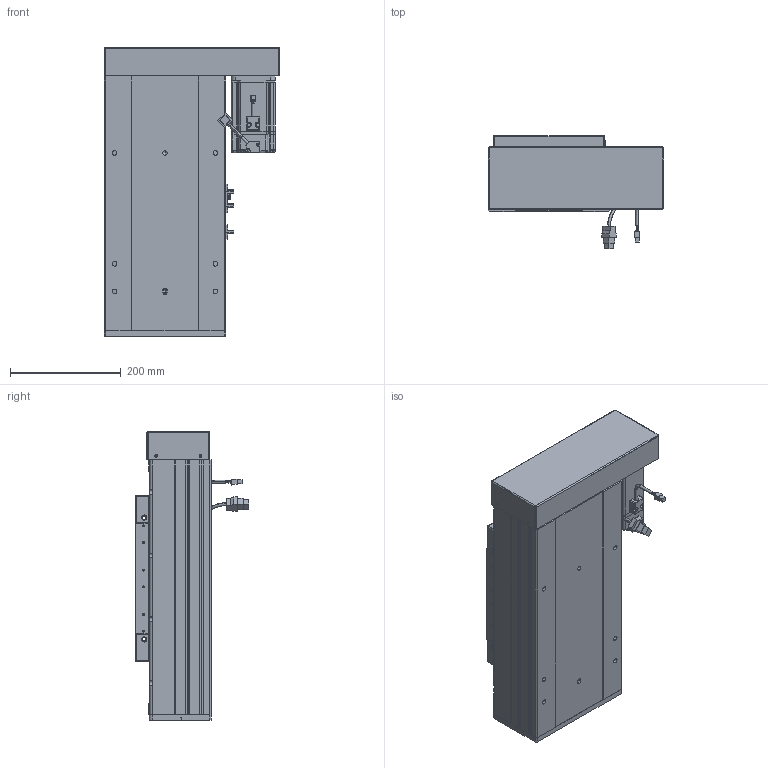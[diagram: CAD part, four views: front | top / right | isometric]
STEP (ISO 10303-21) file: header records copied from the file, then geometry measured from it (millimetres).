
FILE_DESCRIPTION (( 'STEP AP203' ), '1' );
FILE_NAME ('RY220F-L2525-300-RK.SLDASM_50.step', '2022-07-04T01:34:35', ( '' ), ( '' ), 'SwSTEP 2.0', 'SolidWorks 2016', '' );
FILE_SCHEMA (( 'CONFIG_CONTROL_DESIGN' ));
Length unit declared in the file: millimetre
Products named in the file (15): RY220左右折电机安装板; RY220F-滅鳥奻裔; 覜茼ん672; 怢湛750W_ECMA-CX0807ES; RY220F-L2525-300-RK.SLDASM_50; RY220酘衵殏萇儂欶; 侐源滅袉蝶; RY220F-祥凄詩湍-蛌殏-300_50; RY220F-蛌殏奻裔啣-300_50; RY220F蛌殏菁釱-300_50; 滅袉蝶18-24; RY220F-詩湍揤踡輸; RY220F-672覜茼んえ; RY220F臏賑釱25-32佪裝; RY220F綴裔啣
Assembly tree (21 placements, depth 2):
  RY220F-L2525-300-RK.SLDASM_50
    RY220F蛌殏菁釱-300_50
    RY220F-蛌殏奻裔啣-300_50  x2
    怢湛750W_ECMA-CX0807ES
    RY220F臏賑釱25-32佪裝
    RY220F-滅鳥奻裔
    滅袉蝶18-24  x3
    RY220F綴裔啣
    RY220F-祥凄詩湍-蛌殏-300_50
    RY220F-詩湍揤踡輸  x2
    覜茼ん672  x3
    RY220F-672覜茼んえ
    RY220左右折电机安装板
    RY220酘衵殏萇儂欶
    侐源滅袉蝶  x2
Bounding box: 317.5 x 205.27 x 521 mm (x, y, z)
Volume: 6374625.9 mm3; surface area: 1638421.6 mm2
Topology: 22 solids, 22 shells, 2082 faces, 5692 edges, 3600 vertices
Faces by surface type: cylinder 916, plane 888, cone 211, bspline 41, sphere 16, torus 10
Entity records: 63796 total; most frequent: CARTESIAN_POINT 17860, ORIENTED_EDGE 9366, DIRECTION 8906, EDGE_CURVE 4683, AXIS2_PLACEMENT_3D 3123, VERTEX_POINT 3042, VECTOR 2660, LINE 2660
